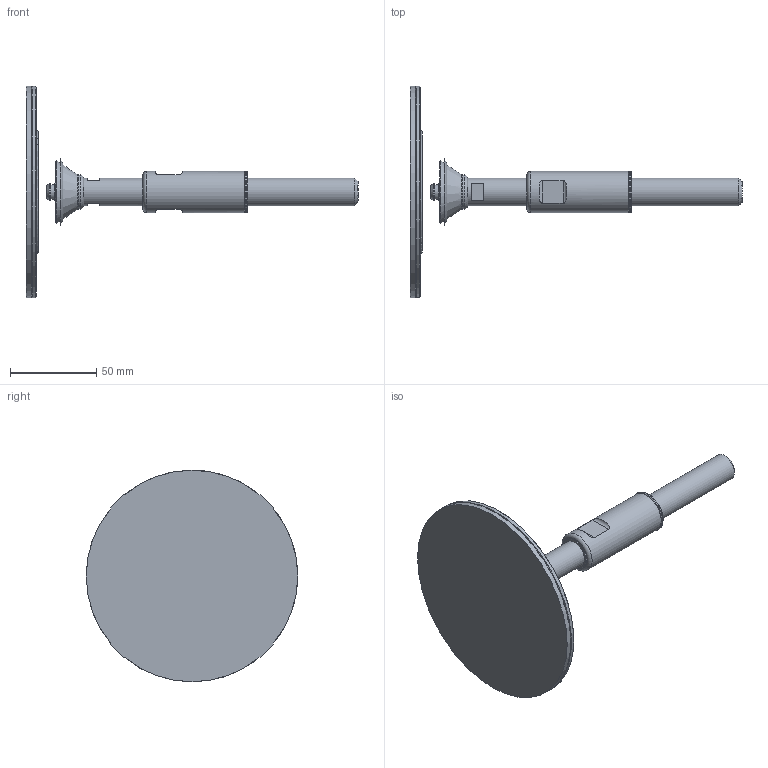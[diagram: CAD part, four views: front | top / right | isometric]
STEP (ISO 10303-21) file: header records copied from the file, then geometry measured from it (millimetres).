
FILE_DESCRIPTION(/* description */ (''),/* implementation_level */ '2;1');
FILE_NAME(/* name */ '\\NAS-MODULA\Backup-nas\Pubblica\DISEGNI 2017\3. LINEA TEKNOCLEAN\VERSIONE USDA 2017\ASSIEMI 2017\ASSIEMI 3D\15806-V\15806-V.stp',/* time_stamp */ '2018-11-12T10:31:19+01:00',/* author */ ('Martin'),/* organization */ (''),/* preprocessor_version */ 'ST-DEVELOPER v17',/* originating_system */ 'Autodesk Inventor 2018',/* authorisation */ '');
FILE_SCHEMA (('AUTOMOTIVE_DESIGN { 1 0 10303 214 3 1 1 }'));
Length unit declared in the file: millimetre
Products named in the file (3): 15806-V; 15808-V; 15804-V
Assembly tree (2 placements, depth 2):
  15806-V
    15808-V
    15804-V
Bounding box: 193 x 123 x 123 mm (x, y, z)
Volume: 129953.9 mm3; surface area: 75277.9 mm2
Topology: 13 solids, 13 shells, 110 faces, 274 edges, 203 vertices
Faces by surface type: plane 44, cylinder 36, torus 22, cone 8
Full cylindrical faces by diameter (mm): 8.5 x1, 10.3 x2, 12 x1, 12.5 x8, 14 x1, 15.5 x1, 16 x3, 16.006 x1, 16.4 x1, 18 x2, 19.006 x2, 20 x1, 22 x2, 22.006 x2, 24 x1, 24.4 x1, 123 x2
Entity records: 3765 total; most frequent: DIRECTION 707, CARTESIAN_POINT 694, ORIENTED_EDGE 546, AXIS2_PLACEMENT_3D 325, EDGE_CURVE 273, CIRCLE 210, VERTEX_POINT 203, EDGE_LOOP 140
